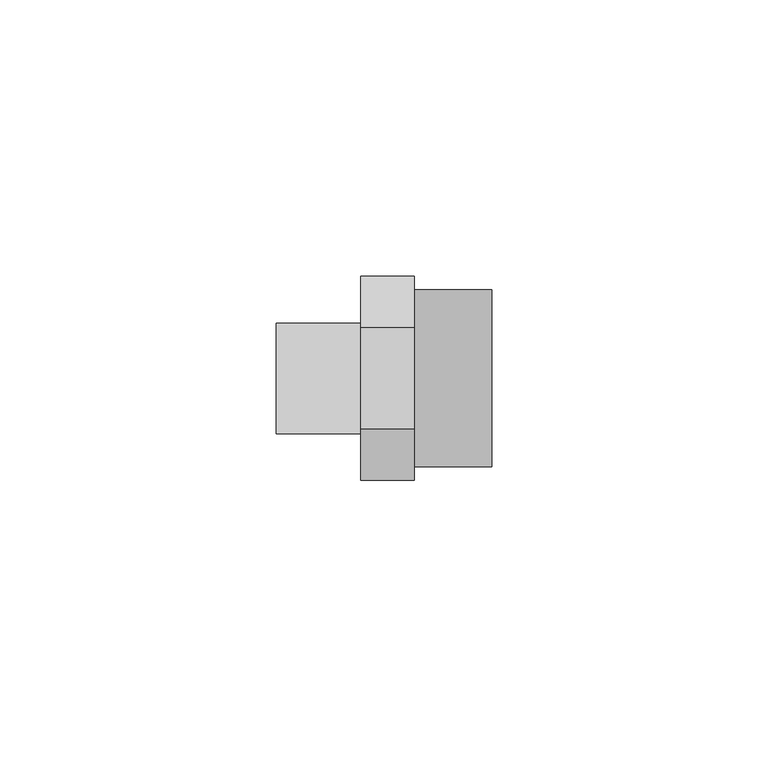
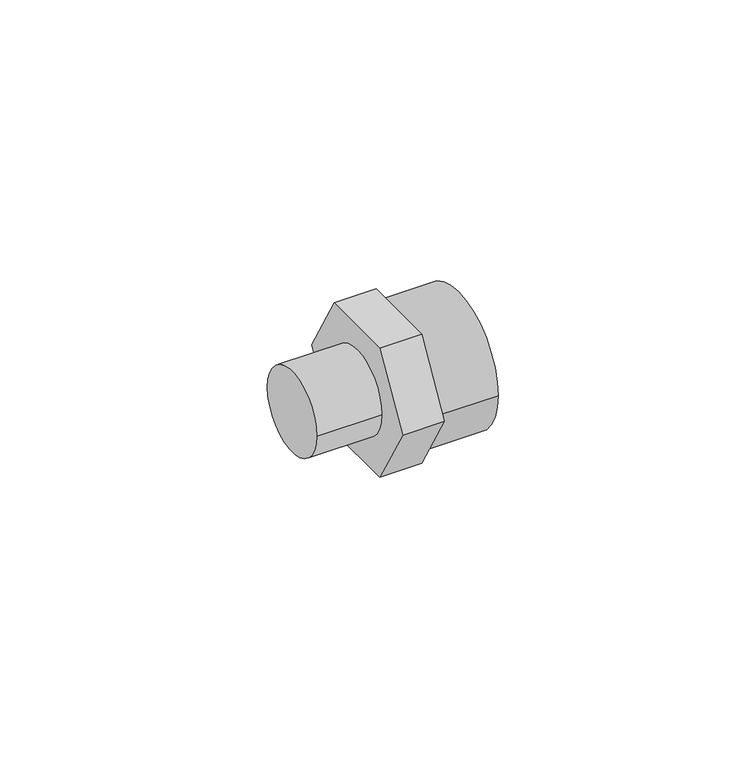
"""IFC4 building model written with IfcOpenShell, lengths in millimetres: pipe fitting geometry, 01011006 : Mamelons de réductio MxF."""

from ifc_helpers import new_model, si_unit, point, frame, origin, origin_2d, place, context, project, spatial, polyline, circle_curve, trimmed, segment, composite_curve, outline, extrude, source, transform, mapped, element, save


def pipe_fitting_0b8449ae(model_context):
    return source(origin(), model_context, "Body", "SweptSolid", [
        extrude(outline(composite_curve([segment(trimmed(circle_curve(origin_2d(), 10.0), [point((10.0, 0.0))], [point((-10.0, 0.0))], False, "CARTESIAN"), True, "CONTINUOUS"), segment(trimmed(circle_curve(origin_2d(), 10.0), [point((-10.0, 0.0))], [point((10.0, 0.0))], False, "CARTESIAN"), True, "CONTINUOUS")], self_intersect=False)), frame((0.0, 0.0, 0.0), z_axis=(1.0, 0.0, 0.0), x_axis=(0.0, 1.0, 0.0)), (0.0, 0.0, 1.0), 15.25),
        extrude(outline(polyline([(-9.2376043, 16.0), (9.2376043, 16.0), (18.4752086, 0.0), (9.2376043, -16.0), (-9.2376043, -16.0), (-18.4752086, 0.0), (-9.2376043, 16.0)])), frame((15.25, 0.0, 0.0), z_axis=(1.0, 0.0, 0.0), x_axis=(0.0, 1.0, 0.0)), (0.0, 0.0, 1.0), 9.75),
        extrude(outline(composite_curve([segment(trimmed(circle_curve(origin_2d(), 16.0), [point((-16.0, 0.0))], [point((16.0, 0.0))], False, "CARTESIAN"), True, "CONTINUOUS"), segment(trimmed(circle_curve(origin_2d(), 16.0), [point((16.0, 0.0))], [point((-16.0, 0.0))], False, "CARTESIAN"), True, "CONTINUOUS")], self_intersect=False)), frame((25.0, 0.0, 0.0), z_axis=(1.0, 0.0, 0.0), x_axis=(0.0, 1.0, 0.0)), (0.0, 0.0, 1.0), 14.0),
    ])


if __name__ == "__main__":
    model = new_model("IFC4")
    model_context = context("Model", 3, world=origin())
    ifc_project = project(units=[si_unit("LENGTHUNIT", "METRE", prefix="MILLI")], contexts=[model_context])
    site = spatial("IfcSite", under=ifc_project)
    building = spatial("IfcBuilding", under=site)
    placement = place(None, origin())
    pipe_fitting_shape = pipe_fitting_0b8449ae(model_context)
    element("IfcPipeFitting", 1, ObjectType="01011006 : Mamelons de réductio MxF", at=placement, inside=building, context=model_context, shape_type="MappedRepresentation", body=[
        mapped(pipe_fitting_shape, transform((0.0, 0.0, 0.0), x_axis=(1.0, 0.0, 0.0), y_axis=(0.0, 1.0, 0.0), z_axis=(0.0, 0.0, 1.0))),
    ])
    save(model, "model.ifc")
